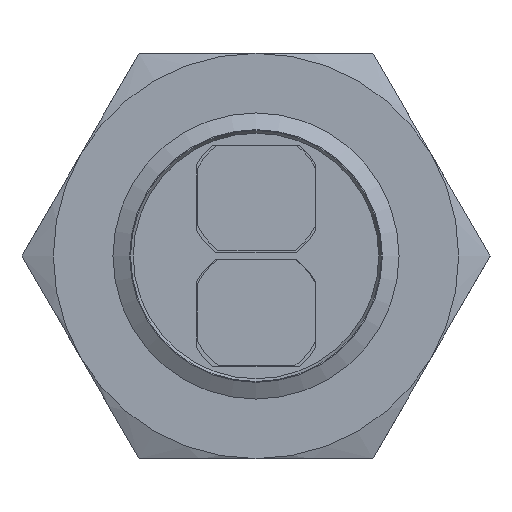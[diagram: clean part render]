
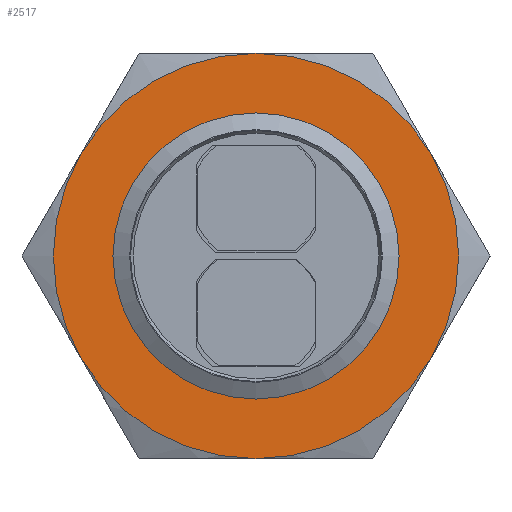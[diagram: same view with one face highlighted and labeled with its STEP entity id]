
A CAD part, left-side view. The second image highlights one B-rep face of the part: STEP entity #2517.
In plain terms, the highlighted planar face has unit normal (-1, 0, 0).
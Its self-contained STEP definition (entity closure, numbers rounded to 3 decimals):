
#131=FACE_BOUND('',#501,.T.);
#203=PLANE('',#2800);
#340=FACE_OUTER_BOUND('',#500,.T.);
#500=EDGE_LOOP('',(#2271,#2272,#2273,#2274,#2275,#2276));
#501=EDGE_LOOP('',(#2277));
#613=CIRCLE('',#2747,8.5);
#614=CIRCLE('',#2749,8.5);
#615=CIRCLE('',#2751,8.5);
#616=CIRCLE('',#2753,8.5);
#617=CIRCLE('',#2755,8.5);
#618=CIRCLE('',#2757,8.5);
#640=CIRCLE('',#2801,6.);
#1187=VERTEX_POINT('',#4498);
#1197=VERTEX_POINT('',#4537);
#1204=VERTEX_POINT('',#4572);
#1206=VERTEX_POINT('',#4587);
#1210=VERTEX_POINT('',#4605);
#1214=VERTEX_POINT('',#4623);
#1219=VERTEX_POINT('',#4695);
#1555=EDGE_CURVE('',#1210,#1206,#613,.T.);
#1556=EDGE_CURVE('',#1214,#1210,#614,.T.);
#1557=EDGE_CURVE('',#1187,#1214,#615,.T.);
#1558=EDGE_CURVE('',#1204,#1187,#616,.T.);
#1559=EDGE_CURVE('',#1197,#1204,#617,.T.);
#1560=EDGE_CURVE('',#1206,#1197,#618,.T.);
#1582=EDGE_CURVE('',#1219,#1219,#640,.T.);
#2271=ORIENTED_EDGE('',*,*,#1556,.F.);
#2272=ORIENTED_EDGE('',*,*,#1557,.F.);
#2273=ORIENTED_EDGE('',*,*,#1558,.F.);
#2274=ORIENTED_EDGE('',*,*,#1559,.F.);
#2275=ORIENTED_EDGE('',*,*,#1560,.F.);
#2276=ORIENTED_EDGE('',*,*,#1555,.F.);
#2277=ORIENTED_EDGE('',*,*,#1582,.F.);
#2517=ADVANCED_FACE('',(#340,#131),#203,.T.);
#2747=AXIS2_PLACEMENT_3D('',#4638,#3395,#3396);
#2749=AXIS2_PLACEMENT_3D('',#4640,#3399,#3400);
#2751=AXIS2_PLACEMENT_3D('',#4642,#3403,#3404);
#2753=AXIS2_PLACEMENT_3D('',#4644,#3407,#3408);
#2755=AXIS2_PLACEMENT_3D('',#4646,#3411,#3412);
#2757=AXIS2_PLACEMENT_3D('',#4648,#3415,#3416);
#2800=AXIS2_PLACEMENT_3D('',#4694,#3501,#3502);
#2801=AXIS2_PLACEMENT_3D('',#4696,#3503,#3504);
#3395=DIRECTION('center_axis',(1.,0.,0.));
#3396=DIRECTION('ref_axis',(0.,0.,-1.));
#3399=DIRECTION('center_axis',(1.,0.,0.));
#3400=DIRECTION('ref_axis',(0.,0.,-1.));
#3403=DIRECTION('center_axis',(1.,0.,0.));
#3404=DIRECTION('ref_axis',(0.,0.,-1.));
#3407=DIRECTION('center_axis',(1.,0.,0.));
#3408=DIRECTION('ref_axis',(0.,0.,-1.));
#3411=DIRECTION('center_axis',(1.,0.,0.));
#3412=DIRECTION('ref_axis',(0.,0.,-1.));
#3415=DIRECTION('center_axis',(1.,0.,0.));
#3416=DIRECTION('ref_axis',(0.,0.,-1.));
#3501=DIRECTION('center_axis',(-1.,0.,0.));
#3502=DIRECTION('ref_axis',(0.,0.,1.));
#3503=DIRECTION('center_axis',(-1.,0.,0.));
#3504=DIRECTION('ref_axis',(0.,1.,0.));
#4498=CARTESIAN_POINT('',(10.,0.,-8.5));
#4537=CARTESIAN_POINT('',(10.,-7.361,4.25));
#4572=CARTESIAN_POINT('',(10.,-7.361,-4.25));
#4587=CARTESIAN_POINT('',(10.,0.,8.5));
#4605=CARTESIAN_POINT('',(10.,7.361,4.25));
#4623=CARTESIAN_POINT('',(10.,7.361,-4.25));
#4638=CARTESIAN_POINT('Origin',(10.,0.,0.));
#4640=CARTESIAN_POINT('Origin',(10.,0.,0.));
#4642=CARTESIAN_POINT('Origin',(10.,0.,0.));
#4644=CARTESIAN_POINT('Origin',(10.,0.,0.));
#4646=CARTESIAN_POINT('Origin',(10.,0.,0.));
#4648=CARTESIAN_POINT('Origin',(10.,0.,0.));
#4694=CARTESIAN_POINT('Origin',(10.,8.5,0.));
#4695=CARTESIAN_POINT('',(10.,-6.,0.));
#4696=CARTESIAN_POINT('Origin',(10.,0.,0.));
